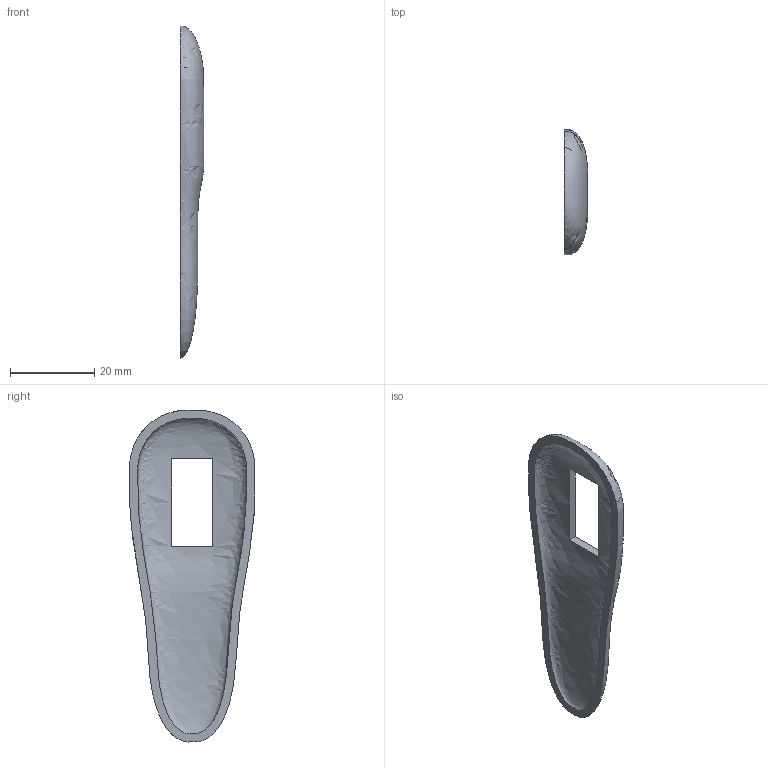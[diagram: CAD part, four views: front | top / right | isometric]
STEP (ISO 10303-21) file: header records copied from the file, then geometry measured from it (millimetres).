
FILE_DESCRIPTION(('Open CASCADE Model'),'2;1');
FILE_NAME('Open CASCADE Shape Model','2026-11-11T21:47:35',('Author'),( 'Open CASCADE'),'Open CASCADE STEP processor 8.0','build123d', 'Unknown');
FILE_SCHEMA(('AUTOMOTIVE_DESIGN { 1 0 10303 214 1 1 1 1 }'));
Length unit declared in the file: millimetre
Products named in the file (1): SOLID
Bounding box: 5.69 x 29.87 x 78.86 mm (x, y, z)
Volume: 3591.2 mm3; surface area: 4124.1 mm2
Topology: 1 solids, 1 shells, 8 faces, 16 edges, 11 vertices
Faces by surface type: plane 6, bspline 2
Entity records: 30987 total; most frequent: CARTESIAN_POINT 30697, ORIENTED_EDGE 32, B_SPLINE_CURVE_WITH_KNOTS 32, PCURVE 32, DEFINITIONAL_REPRESENTATION 32, DIRECTION 30, EDGE_CURVE 16, SURFACE_CURVE 16
